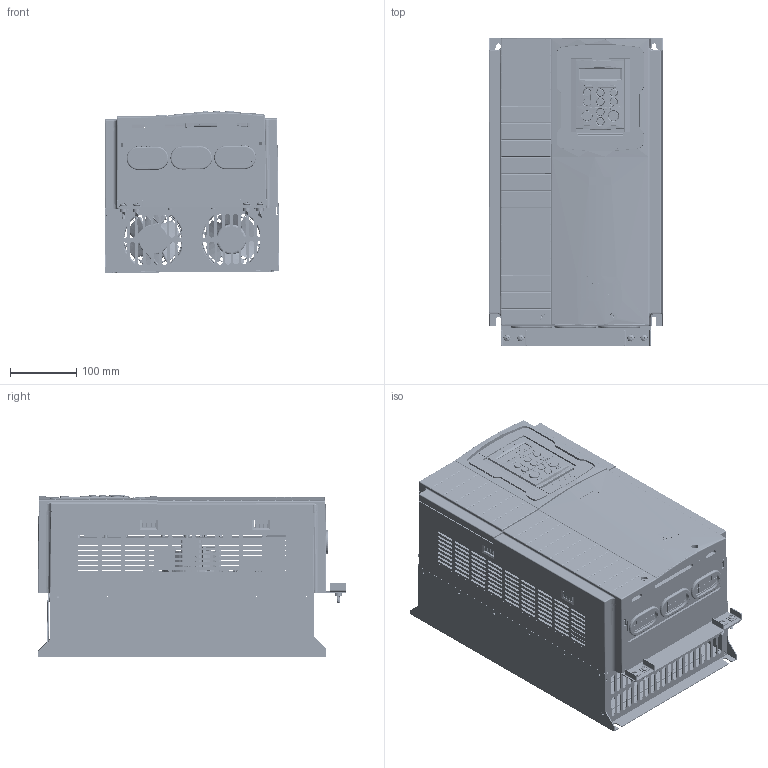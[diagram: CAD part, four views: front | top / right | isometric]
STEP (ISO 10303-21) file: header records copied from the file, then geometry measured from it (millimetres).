
FILE_DESCRIPTION(/* description */ ('','CAx-IF Rec.Pracs.---Representation and Presentation of Product Manufacturing Information (PMI)---4.0---2014-10-13'),/* implementation_level */ '2;1');
FILE_NAME(/* name */ 'C:\Users\943103\Desktop\Assembly22_SUB.stp',/* time_stamp */ '2023-09-20T21:07:47+01:00',/* author */ ('943103'),/* organization */ (''),/* preprocessor_version */ 'ST-DEVELOPER v18',/* originating_system */ 'Autodesk Inventor 2020',/* authorisation */ '');
FILE_SCHEMA (('AP242_MANAGED_MODEL_BASED_3D_ENGINEERING_MIM_LF { 1 0 10303 442 1 1 4 }'));
Products named in the file (1): Assembly22_SUB
Bounding box: 262.85 x 465 x 244.25 mm (x, y, z)
Volume: 2949398.3 mm3; surface area: 2173715.3 mm2
Topology: 1 solids, 1 shells, 25544 faces, 74704 edges, 49609 vertices
Faces by surface type: plane 17329, cylinder 4937, bspline 2232, cone 676, torus 290, sphere 80
Full cylindrical faces by diameter (mm): 0.5 x6, 0.508 x136, 0.6 x11, 0.7 x2, 0.762 x547, 0.787 x39, 0.8 x16, 0.9 x4, 0.994 x9, 1 x17, 1.016 x8, 1.1 x13, 1.143 x6, 1.2 x76, 1.27 x2, 1.3 x9, 1.4 x12, 1.45 x20, 1.5 x7, 1.6 x35, 1.8 x11, 2 x47, 2.2 x4, 2.35 x3, 2.4 x18, 2.7 x1, 2.8 x20, 2.9 x23, 3 x31, 3.1 x7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
Entity records: 1024199 total; most frequent: CARTESIAN_POINT 324296, ORIENTED_EDGE 149280, DIRECTION 131486, EDGE_CURVE 74640, LINE 53064, VECTOR 53064, VERTEX_POINT 49625, AXIS2_PLACEMENT_3D 39211
